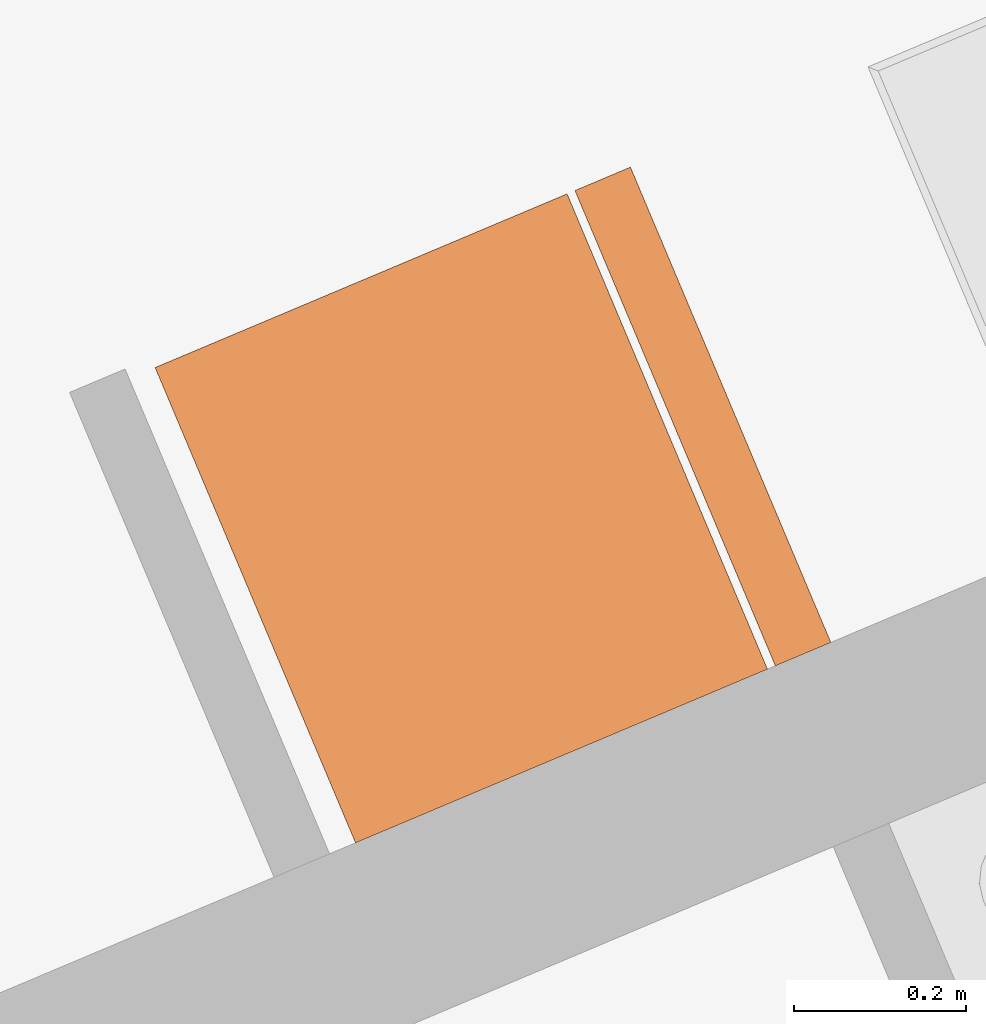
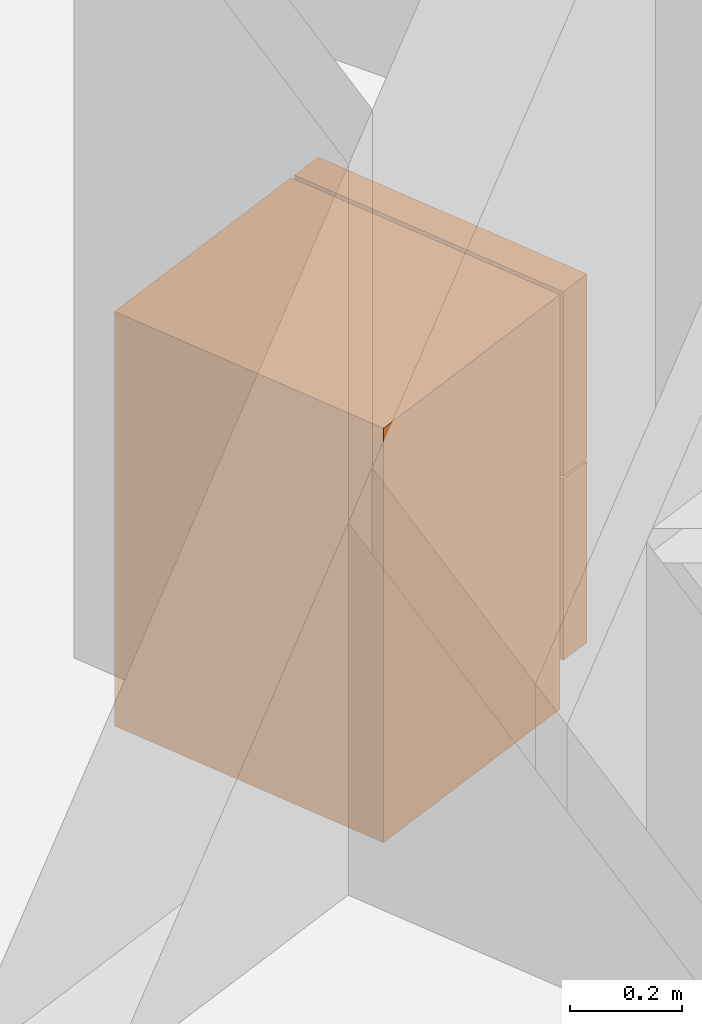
# One storey, part 177 of 195: 1 proxy.
"""IFC2X3 building model written with IfcOpenShell, lengths in metres."""

import ifcopenshell
import ifcopenshell.guid

model = None  # the IFC model being written
_history = None  # IfcOwnerHistory: only IFC2X3 demands one
_inside = {}  # id of a spatial element -> (the spatial element, [elements in it])
_under = {}  # id of a project, library or spatial element -> (it, [spatial elements below it])
_declared = {}  # id of a project -> (the project, [libraries it declares])
_typed = {}  # id of a type object -> (the type object, [elements of that type])
_made_of = {}  # id of a material, layer set ... -> (it, [elements and type objects made of it])


def new_model(schema):
    """Start an empty IFC model of exactly this schema.

    Asked for "IFC4X3", IfcOpenShell would pick the latest addendum, in which some entities
    have other attributes; the version numbers below select the first issue.
    IFC2X3 requires an IfcOwnerHistory on every rooted entity: one is made here for all.
    """
    global model, _history
    if schema == "IFC4X3":
        model = ifcopenshell.file(schema_version=(4, 3, 0, 0))
    else:
        model = ifcopenshell.file(schema=schema)
    _inside.clear()
    _under.clear()
    _declared.clear()
    _typed.clear()
    _made_of.clear()
    _history = None
    if model.schema == "IFC2X3":
        org = make("IfcOrganization", Name="unknown")
        user = make(
            "IfcPersonAndOrganization",
            ThePerson=make("IfcPerson", FamilyName="unknown"),
            TheOrganization=org,
        )
        app = make(
            "IfcApplication",
            ApplicationDeveloper=org,
            Version="unknown",
            ApplicationFullName="unknown",
            ApplicationIdentifier="unknown",
        )
        _history = make(
            "IfcOwnerHistory",
            OwningUser=user,
            OwningApplication=app,
            ChangeAction="ADDED",
            CreationDate=0,
        )
    return model


def make(cls, **values):
    """One entity of the class cls with the attributes given. An attribute that is None is left unset."""
    return model.create_entity(
        cls, **{name: value for name, value in values.items() if value is not None}
    )


def entity(cls, *values):
    """Any entity or typed value of the class cls, its attributes in the order of the schema. None: left unset."""
    e = model.create_entity(cls)
    for i, value in enumerate(values):
        if value is not None:
            e[i] = value
    return e


def rooted(cls, **values):
    """An entity with a GlobalId (a new one), such as an element, a storey or a relation."""
    return make(cls, GlobalId=ifcopenshell.guid.new(), OwnerHistory=_history, **values)


def si_unit(unit_type, name, prefix=None):
    """IfcSIUnit, for example si_unit("LENGTHUNIT", "METRE", prefix="MILLI")."""
    return make("IfcSIUnit", UnitType=unit_type, Prefix=prefix, Name=name)


def converted_unit(unit_type, name, factor, base, dimensions=None, offset=None):
    """IfcConversionBasedUnit, such as the inch: factor (a typed value) times the base unit."""
    return make(
        "IfcConversionBasedUnit"
        if offset is None
        else "IfcConversionBasedUnitWithOffset",
        ConversionOffset=offset,
        Dimensions=None
        if dimensions is None
        else entity("IfcDimensionalExponents", *dimensions),
        UnitType=unit_type,
        Name=name,
        ConversionFactor=make(
            "IfcMeasureWithUnit", ValueComponent=factor, UnitComponent=base
        ),
    )


def derived_unit(unit_type, elements):
    """IfcDerivedUnit: a product of units, each with its exponent."""
    return make(
        "IfcDerivedUnit",
        Elements=[
            make("IfcDerivedUnitElement", Unit=unit, Exponent=power)
            for unit, power in elements
        ],
        UnitType=unit_type,
    )


def money_unit(currency):
    """IfcMonetaryUnit."""
    return make("IfcMonetaryUnit", Currency=currency)


def assignment(units):
    """IfcUnitAssignment: the units of a project."""
    return None if units is None else make("IfcUnitAssignment", Units=units)


def point(xyz):
    """IfcCartesianPoint."""
    return None if xyz is None else make("IfcCartesianPoint", Coordinates=xyz)


def direction(xyz):
    """IfcDirection."""
    return None if xyz is None else make("IfcDirection", DirectionRatios=xyz)


def frame(location, z_axis=None, x_axis=None):
    """IfcAxis2Placement3D, a coordinate frame: its origin and axes. An axis left out is left unset."""
    return make(
        "IfcAxis2Placement3D",
        Location=point(location),
        Axis=direction(z_axis),
        RefDirection=direction(x_axis),
    )


def origin_with_axes():
    """The frame at (0, 0, 0) with the z axis (0, 0, 1) and the x axis (1, 0, 0) written out."""
    return frame((0.0, 0.0, 0.0), z_axis=(0.0, 0.0, 1.0), x_axis=(1.0, 0.0, 0.0))


def place(relative_to, where):
    """IfcLocalPlacement: puts the frame where relative to a parent placement (None: the world)."""
    return make(
        "IfcLocalPlacement", PlacementRelTo=relative_to, RelativePlacement=where
    )


def context(
    kind, dimensions, precision=None, world=None, true_north=None, identifier=None
):
    """IfcGeometricRepresentationContext, for example the 3D "Model" context."""
    return make(
        "IfcGeometricRepresentationContext",
        ContextIdentifier=identifier,
        ContextType=kind,
        CoordinateSpaceDimension=dimensions,
        Precision=precision,
        WorldCoordinateSystem=world,
        TrueNorth=true_north,
    )


def subcontext(parent, identifier, kind, view, scale=None):
    """IfcGeometricRepresentationSubContext, for example "Body" below "Model"."""
    return make(
        "IfcGeometricRepresentationSubContext",
        ContextIdentifier=identifier,
        ContextType=kind,
        ParentContext=parent,
        TargetScale=scale,
        TargetView=view,
    )


def project(units=None, contexts=None):
    """IfcProject with its units and contexts."""
    return rooted(
        "IfcProject",
        Name="project",
        RepresentationContexts=contexts,
        UnitsInContext=assignment(units),
    )


def spatial(cls, under=None, at=None, **own):
    """A site, building, storey or space (cls), placed at a placement, below another one or the project."""
    s = rooted(cls, ObjectPlacement=at, **own)
    if under is not None:
        _under.setdefault(under.id(), (under, []))[1].append(s)
    return s


def faces_of(points, faces, orient=None, outer=None):
    """IfcFace entities. A face is a list of loops; a loop is a list of indices into points, from 0.

    orient and outer hold one flag for each loop. By default every Orientation is true, the
    first loop of a face is its IfcFaceOuterBound and the others are IfcFaceBound.
    """
    made = []
    for i, loops in enumerate(faces):
        bounds = []
        for j, loop in enumerate(loops):
            is_outer = j == 0 if outer is None else outer[i][j]
            bounds.append(
                make(
                    "IfcFaceOuterBound" if is_outer else "IfcFaceBound",
                    Bound=make("IfcPolyLoop", Polygon=[points[k] for k in loop]),
                    Orientation=True if orient is None else orient[i][j],
                )
            )
        made.append(make("IfcFace", Bounds=bounds))
    return made


def open_shell(faces, orient=None, outer=None):
    """The faces of one IfcOpenShell. surface_model builds it on its shared points."""
    return ("IfcOpenShell", faces, orient, outer)


def faceted_brep(points, faces, orient=None, outer=None, voids=None):
    """IfcFacetedBrep: a solid bounded by flat faces; with voids (closed shells), ...WithVoids."""
    shared = [point(p) for p in points]
    hull = make("IfcClosedShell", CfsFaces=faces_of(shared, faces, orient, outer))
    if voids is None:
        return make("IfcFacetedBrep", Outer=hull)
    return make(
        "IfcFacetedBrepWithVoids",
        Outer=hull,
        Voids=[
            make(cls, CfsFaces=faces_of(shared, fs, o, b)) for cls, fs, o, b in voids
        ],
    )


def surface_model(cls, points, shells):
    """IfcFaceBasedSurfaceModel or IfcShellBasedSurfaceModel (cls): surfaces that need not close."""
    shared = [point(p) for p in points]
    made = [make(c, CfsFaces=faces_of(shared, fs, o, b)) for c, fs, o, b in shells]
    if cls == "IfcFaceBasedSurfaceModel":
        return make(cls, FbsmFaces=made)
    return make(cls, SbsmBoundary=made)


def shape(context_of_items, identifier, shape_type, items):
    """IfcShapeRepresentation: the items that make up one representation, for example the "Body"."""
    return make(
        "IfcShapeRepresentation",
        ContextOfItems=context_of_items,
        RepresentationIdentifier=identifier,
        RepresentationType=shape_type,
        Items=items,
    )


def source(mapping_origin, context_of_items, identifier, shape_type, items):
    """IfcRepresentationMap: a shape defined once, which mapped items show again and again."""
    return make(
        "IfcRepresentationMap",
        MappingOrigin=mapping_origin,
        MappedRepresentation=shape(context_of_items, identifier, shape_type, items),
    )


def transform(
    local_origin,
    x_axis=None,
    y_axis=None,
    z_axis=None,
    scale=None,
    scale2=None,
    scale3=None,
    uniform=True,
):
    """IfcCartesianTransformationOperator3D, or its non-uniform kind. x_axis, y_axis, z_axis: its Axis1, 2, 3."""
    if uniform:
        return make(
            "IfcCartesianTransformationOperator3D",
            Axis1=direction(x_axis),
            Axis2=direction(y_axis),
            LocalOrigin=point(local_origin),
            Scale=scale,
            Axis3=direction(z_axis),
        )
    return make(
        "IfcCartesianTransformationOperator3DnonUniform",
        Axis1=direction(x_axis),
        Axis2=direction(y_axis),
        LocalOrigin=point(local_origin),
        Scale=scale,
        Axis3=direction(z_axis),
        Scale2=scale2,
        Scale3=scale3,
    )


def mapped(mapping_source, mapping_target):
    """IfcMappedItem: shows the shape of a source again, moved by a transform."""
    return make(
        "IfcMappedItem", MappingSource=mapping_source, MappingTarget=mapping_target
    )


def made_of(thing, what):
    """Note that an element or type object is made of a material, layer set ...; save() writes the relation."""
    if what is not None:
        _made_of.setdefault(what.id(), (what, []))[1].append(thing)
    return thing


def type_object(cls, material=None, **own):
    """A type object (cls), such as IfcWallType, which elements share."""
    return made_of(rooted(cls, **own), material)


def element(
    cls,
    number,
    at=None,
    inside=None,
    cuts=None,
    type_object=None,
    material=None,
    context=None,
    identifier="Body",
    shape_type=None,
    held_by="IfcProductDefinitionShape",
    body=None,
    shapes=None,
    **own,
):
    """One element of the class cls, such as IfcWall. Its Tag is "e" and its number.

    at: its placement. inside: the storey or other place that contains it. cuts: it is an
    opening in that element (IfcRelVoidsElement). A single representation is given by context,
    identifier, shape_type and body (its items); several are given by shapes. held_by: the class
    of the entity that holds the representations. save() writes the other relations.
    """
    e = rooted(cls, Tag="e%d" % number, ObjectPlacement=at, **own)
    if body is not None:
        shapes = [shape(context, identifier, shape_type, body)]
    if shapes is not None:
        e.Representation = make(held_by, Representations=shapes)
    if inside is not None:
        _inside.setdefault(inside.id(), (inside, []))[1].append(e)
    if cuts is not None:
        rooted(
            "IfcRelVoidsElement", RelatingBuildingElement=cuts, RelatedOpeningElement=e
        )
    if type_object is not None:
        _typed.setdefault(type_object.id(), (type_object, []))[1].append(e)
    return made_of(e, material)


def aggregate(whole, parts):
    """IfcRelAggregates: a whole, such as a stair, and the parts it consists of."""
    return rooted("IfcRelAggregates", RelatingObject=whole, RelatedObjects=parts)


def save(model, path):
    """Write the relations noted so far, then the file.

    IfcRelAggregates (storeys below a building ...), IfcRelContainedInSpatialStructure (elements
    in a storey), IfcRelDefinesByType, IfcRelAssociatesMaterial and IfcRelDeclares: one each for
    every whole, place, type object, material and project.
    """
    for whole, parts in _under.values():
        aggregate(whole, parts)
    for where, things in _inside.values():
        rooted(
            "IfcRelContainedInSpatialStructure",
            RelatedElements=things,
            RelatingStructure=where,
        )
    for kind, things in _typed.values():
        rooted("IfcRelDefinesByType", RelatedObjects=things, RelatingType=kind)
    for what, things in _made_of.values():
        rooted("IfcRelAssociatesMaterial", RelatedObjects=things, RelatingMaterial=what)
    for by, libraries in _declared.values():
        rooted("IfcRelDeclares", RelatingContext=by, RelatedDefinitions=libraries)
    model.write(path)


model = new_model("IFC2X3")

# Units and contexts
model_context = context("Model", 3, precision=1e-05, world=origin_with_axes(), true_north=direction((0.0, 1.0)))
body_context = subcontext(model_context, "Body", "Model", "MODEL_VIEW")
ifc_project = project(units=[si_unit("LENGTHUNIT", "METRE"), si_unit("AREAUNIT", "SQUARE_METRE"), si_unit("VOLUMEUNIT", "CUBIC_METRE"), converted_unit("PLANEANGLEUNIT", "DEGREE", entity("IfcPlaneAngleMeasure", 0.0174532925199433), si_unit("PLANEANGLEUNIT", "RADIAN"), dimensions=[0, 0, 0, 0, 0, 0, 0]), money_unit("CHF"), converted_unit("TIMEUNIT", "Year", entity("IfcTimeMeasure", 31557600.0), si_unit("TIMEUNIT", "SECOND"), dimensions=[0, 0, 1, 0, 0, 0, 0]), si_unit("MASSUNIT", "GRAM", prefix="KILO"), si_unit("THERMODYNAMICTEMPERATUREUNIT", "DEGREE_CELSIUS"), si_unit("LUMINOUSINTENSITYUNIT", "LUMEN"), si_unit("ENERGYUNIT", "JOULE", prefix="MEGA"), derived_unit("THERMALCONDUCTANCEUNIT", [(si_unit("POWERUNIT", "WATT"), 1), (si_unit("LENGTHUNIT", "METRE"), -1), (si_unit("THERMODYNAMICTEMPERATUREUNIT", "KELVIN"), -1)]), derived_unit("SPECIFICHEATCAPACITYUNIT", [(si_unit("ENERGYUNIT", "JOULE"), 1), (si_unit("MASSUNIT", "GRAM", prefix="KILO"), -1), (si_unit("THERMODYNAMICTEMPERATUREUNIT", "KELVIN"), -1)]), derived_unit("MASSDENSITYUNIT", [(si_unit("MASSUNIT", "GRAM", prefix="KILO"), 1), (si_unit("VOLUMEUNIT", "CUBIC_METRE"), -1)])], contexts=[model_context])

# Site, building, storey
site_placement = place(None, origin_with_axes())
site = spatial("IfcSite", under=ifc_project, at=site_placement, Name="Site", CompositionType="ELEMENT")
building_placement = place(site_placement, origin_with_axes())
building = spatial("IfcBuilding", under=site, at=building_placement, Name="Bâtiment", CompositionType="ELEMENT")
storey_placement = place(building_placement, origin_with_axes())
storey = spatial("IfcBuildingStorey", under=building, at=storey_placement, Name="rdc", CompositionType="ELEMENT", Elevation=0.0)

# Proxy
building_element_proxy_type = type_object("IfcBuildingElementProxyType", PredefinedType="NOTDEFINED")
shared_shape = source(origin_with_axes(), body_context, "Body", "SurfaceModel", [
    faceted_brep([(0.0, 0.08, 0.1), (0.6, 0.08, 0.1), (0.6, 0.08, 0.9), (0.0, 0.08, 0.9), (0.0, 0.6, 0.1), (0.6, 0.6, 0.1), (0.6, 0.6, 0.9), (0.0, 0.6, 0.9)], [[[0, 1, 2, 3]], [[0, 4, 5, 1]], [[1, 5, 6, 2]], [[3, 2, 6, 7]], [[4, 0, 3, 7]], [[5, 4, 7, 6]]]),
    faceted_brep([(0.0, 0.08, 0.0), (0.6, 0.08, 0.0), (0.6, 0.08, 0.1), (0.0, 0.08, 0.1), (0.0, 0.6, 0.0), (0.6, 0.6, 0.0), (0.6, 0.6, 0.1), (0.0, 0.6, 0.1)], [[[0, 1, 2, 3]], [[0, 4, 5, 1]], [[1, 5, 6, 2]], [[3, 2, 6, 7]], [[4, 0, 3, 7]], [[5, 4, 7, 6]]]),
    faceted_brep([(0.0, 0.07, 0.1), (0.6, 0.07, 0.1), (0.6, 0.0, 0.1), (0.0, 0.0, 0.1), (0.0, 0.07000000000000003, 0.494), (0.6, 0.07000000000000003, 0.494), (0.6, 0.0, 0.494), (0.0, 0.0, 0.494)], [[[0, 1, 2, 3]], [[0, 4, 5, 1]], [[1, 5, 6, 2]], [[3, 2, 6, 7]], [[4, 0, 3, 7]], [[5, 4, 7, 6]]]),
    faceted_brep([(0.0, 0.07, 0.5), (0.6, 0.07, 0.5), (0.6, 0.0, 0.5), (0.0, 0.0, 0.5), (0.0, 0.07000000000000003, 0.9), (0.6, 0.07000000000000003, 0.9), (0.6, 0.0, 0.9), (0.0, 0.0, 0.9)], [[[0, 1, 2, 3]], [[0, 4, 5, 1]], [[1, 5, 6, 2]], [[3, 2, 6, 7]], [[4, 0, 3, 7]], [[5, 4, 7, 6]]]),
    surface_model("IfcShellBasedSurfaceModel", [(0.6, -0.03, 0.3), (0.6, -0.03, 0.4940000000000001), (0.6, 0.0, 0.4940000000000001), (0.6, 0.0, 0.3)], [open_shell([[[0, 1, 2, 3]]])]),
    surface_model("IfcShellBasedSurfaceModel", [(0.6, -0.03, 0.3), (0.6, -0.03, 0.4940000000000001), (0.57, -0.03, 0.4940000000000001), (0.57, -0.03, 0.3)], [open_shell([[[0, 1, 2, 3]]])]),
    surface_model("IfcShellBasedSurfaceModel", [(0.6, -0.03, 0.5), (0.6, -0.03, 0.7), (0.6, 0.0, 0.7), (0.6, 0.0, 0.5)], [open_shell([[[0, 1, 2, 3]]])]),
    surface_model("IfcShellBasedSurfaceModel", [(0.6, -0.03, 0.5), (0.6, -0.03, 0.7), (0.57, -0.03, 0.7), (0.57, -0.03, 0.5)], [open_shell([[[0, 1, 2, 3]]])]),
])
proxy_placement = place(storey_placement, frame((9565.95543989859, -1035.939215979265, 57.49999999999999), z_axis=(0.0, 0.0, 1.0), x_axis=(-0.3885045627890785, 0.9214467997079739, 0.0)))
element("IfcBuildingElementProxy", 1, at=proxy_placement, inside=storey, type_object=building_element_proxy_type, Name="Obj.-019", context=body_context, shape_type="MappedRepresentation", body=[
    mapped(shared_shape, transform((0.0, 0.0, 0.0))),
])

save(model, "model.ifc")
